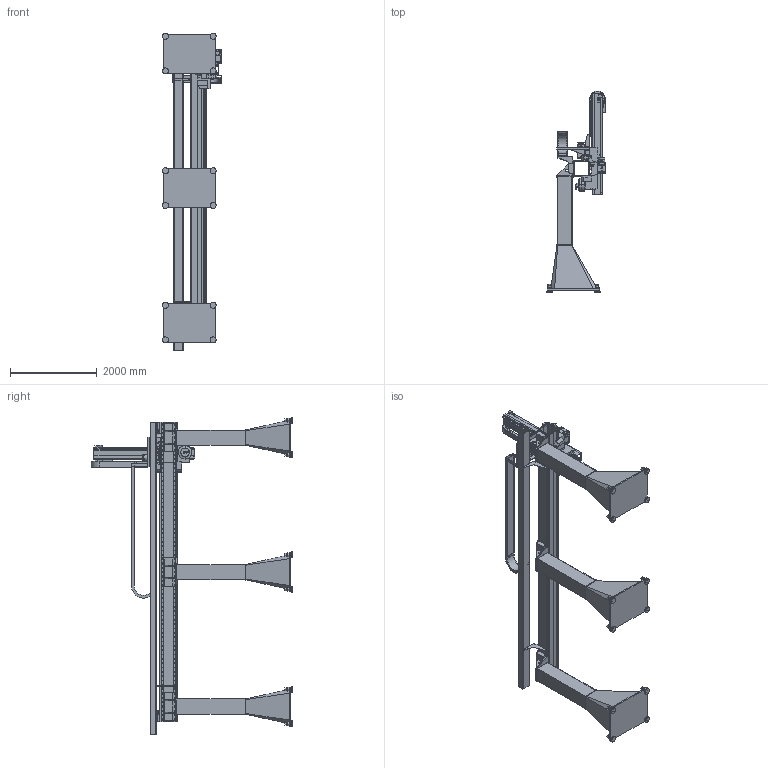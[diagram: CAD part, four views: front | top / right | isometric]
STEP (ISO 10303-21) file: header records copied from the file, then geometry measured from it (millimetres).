
FILE_DESCRIPTION (( 'STEP AP203' ), '1' );
FILE_NAME ('10-00000596-001.STEP', '2019-11-29T11:52:35', ( '' ), ( '' ), 'SwSTEP 2.0', 'SolidWorks 2017', '' );
FILE_SCHEMA (( 'CONFIG_CONTROL_DESIGN' ));
Length unit declared in the file: millimetre
Products named in the file (18): 10-00000599-026_NEUER ARTIKEL; 10-00000596-014_.; 10-00000599-024_180ø; 10-00000596-013_.; 10-00000596-010_NEUER ARTIKEL; 10-00000596-002_.; 10-00000596-001; 10-00000596-016_.__asm; 10-00000596-003_NEUER ARTIKEL___links; 10-00000516-022_.; 10-00000596-003_NEUER ARTIKEL___rechts; 10-00000596-011_NEUER ARTIKEL; 10-00000596-004_.; 10-00000596-015_links; 10-00000596-005_.; 10-00000596-009_Katalog_Anschlag_links; 10-00000599-025_.; 10-00000596-013_NEUER ARTIKEL
Assembly tree (21 placements, depth 3):
  10-00000596-001
    10-00000596-002_.
    10-00000596-003_NEUER ARTIKEL___links
    10-00000596-003_NEUER ARTIKEL___rechts
    10-00000596-004_.  x2
    10-00000596-005_.
    10-00000599-024_180ø  x3
      10-00000599-025_.
      10-00000599-026_NEUER ARTIKEL
    10-00000596-009_Katalog_Anschlag_links
      10-00000596-010_NEUER ARTIKEL
      10-00000596-016_.__asm  x2
      10-00000516-022_.
      10-00000596-011_NEUER ARTIKEL
      10-00000596-015_links
    10-00000596-013_.
      10-00000596-013_NEUER ARTIKEL
      10-00000596-014_.
Bounding box: 1365.2 x 4641 x 7320 mm (x, y, z)
Volume: 1900050749.1 mm3; surface area: 76618059.6 mm2
Topology: 37 solids, 63 shells, 3767 faces, 9766 edges, 6254 vertices
Faces by surface type: plane 1932, cylinder 1361, cone 450, bspline 16, torus 8
Entity records: 72592 total; most frequent: CARTESIAN_POINT 14629, ORIENTED_EDGE 11592, DIRECTION 11489, EDGE_CURVE 5798, AXIS2_PLACEMENT_3D 3940, VERTEX_POINT 3776, LINE 3609, VECTOR 3609
